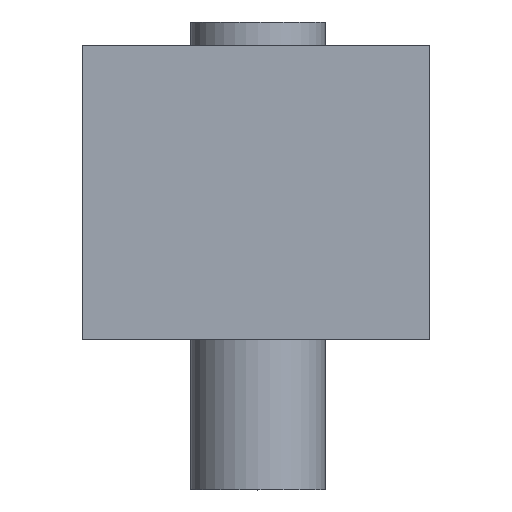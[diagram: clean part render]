
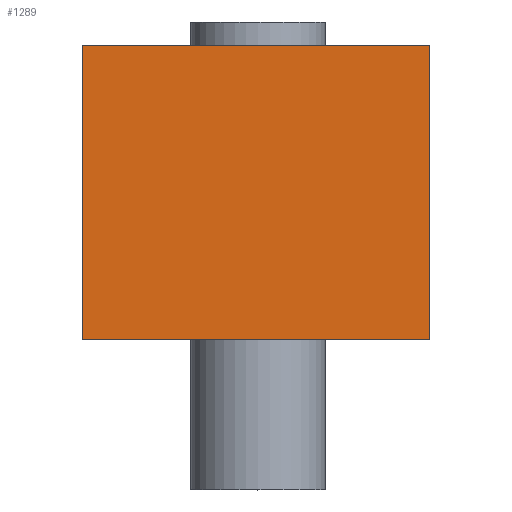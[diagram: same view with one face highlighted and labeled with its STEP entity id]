
A CAD part, top view. The second image highlights one B-rep face of the part: STEP entity #1289.
In plain terms, the highlighted planar face has unit normal (0, 0, 1).
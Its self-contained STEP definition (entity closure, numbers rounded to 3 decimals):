
#44 = PLANE('',#45);
#45 = AXIS2_PLACEMENT_3D('',#46,#47,#48);
#46 = CARTESIAN_POINT('',(-47.,59.043,-35.));
#47 = DIRECTION('',(-1.,0.,0.));
#48 = DIRECTION('',(0.,0.,1.));
#72 = PLANE('',#73);
#73 = AXIS2_PLACEMENT_3D('',#74,#75,#76);
#74 = CARTESIAN_POINT('',(-0.5,59.043,1.25));
#75 = DIRECTION('',(0.,1.,0.));
#76 = DIRECTION('',(0.,-0.,1.));
#100 = PLANE('',#101);
#101 = AXIS2_PLACEMENT_3D('',#102,#103,#104);
#102 = CARTESIAN_POINT('',(46.,59.043,37.5));
#103 = DIRECTION('',(1.,0.,0.));
#104 = DIRECTION('',(0.,0.,-1.));
#250 = VERTEX_POINT('',#251);
#251 = CARTESIAN_POINT('',(-47.,-19.8,37.5));
#265 = PLANE('',#266);
#266 = AXIS2_PLACEMENT_3D('',#267,#268,#269);
#267 = CARTESIAN_POINT('',(-47.,-19.8,34.));
#268 = DIRECTION('',(0.,1.,0.));
#269 = DIRECTION('',(0.,0.,1.));
#277 = EDGE_CURVE('',#250,#278,#280,.T.);
#278 = VERTEX_POINT('',#279);
#279 = CARTESIAN_POINT('',(-47.,59.043,37.5));
#280 = SURFACE_CURVE('',#281,(#285,#292),.PCURVE_S1.);
#281 = LINE('',#282,#283);
#282 = CARTESIAN_POINT('',(-47.,-19.8,37.5));
#283 = VECTOR('',#284,1.);
#284 = DIRECTION('',(0.,1.,0.));
#285 = PCURVE('',#44,#286);
#286 = DEFINITIONAL_REPRESENTATION('',(#287),#291);
#287 = LINE('',#288,#289);
#288 = CARTESIAN_POINT('',(72.5,-78.843));
#289 = VECTOR('',#290,1.);
#290 = DIRECTION('',(0.,1.));
#291 = ( GEOMETRIC_REPRESENTATION_CONTEXT(2) 
PARAMETRIC_REPRESENTATION_CONTEXT() REPRESENTATION_CONTEXT('2D SPACE',''
  ) );
#292 = PCURVE('',#293,#298);
#293 = PLANE('',#294);
#294 = AXIS2_PLACEMENT_3D('',#295,#296,#297);
#295 = CARTESIAN_POINT('',(-47.,59.043,37.5));
#296 = DIRECTION('',(-0.,0.,1.));
#297 = DIRECTION('',(1.,0.,0.));
#298 = DEFINITIONAL_REPRESENTATION('',(#299),#303);
#299 = LINE('',#300,#301);
#300 = CARTESIAN_POINT('',(0.,-78.843));
#301 = VECTOR('',#302,1.);
#302 = DIRECTION('',(0.,1.));
#303 = ( GEOMETRIC_REPRESENTATION_CONTEXT(2) 
PARAMETRIC_REPRESENTATION_CONTEXT() REPRESENTATION_CONTEXT('2D SPACE',''
  ) );
#331 = EDGE_CURVE('',#332,#278,#334,.T.);
#332 = VERTEX_POINT('',#333);
#333 = CARTESIAN_POINT('',(46.,59.043,37.5));
#334 = SURFACE_CURVE('',#335,(#339,#346),.PCURVE_S1.);
#335 = LINE('',#336,#337);
#336 = CARTESIAN_POINT('',(46.,59.043,37.5));
#337 = VECTOR('',#338,1.);
#338 = DIRECTION('',(-1.,0.,0.));
#339 = PCURVE('',#72,#340);
#340 = DEFINITIONAL_REPRESENTATION('',(#341),#345);
#341 = LINE('',#342,#343);
#342 = CARTESIAN_POINT('',(36.25,46.5));
#343 = VECTOR('',#344,1.);
#344 = DIRECTION('',(0.,-1.));
#345 = ( GEOMETRIC_REPRESENTATION_CONTEXT(2) 
PARAMETRIC_REPRESENTATION_CONTEXT() REPRESENTATION_CONTEXT('2D SPACE',''
  ) );
#346 = PCURVE('',#293,#347);
#347 = DEFINITIONAL_REPRESENTATION('',(#348),#352);
#348 = LINE('',#349,#350);
#349 = CARTESIAN_POINT('',(93.,0.));
#350 = VECTOR('',#351,1.);
#351 = DIRECTION('',(-1.,0.));
#352 = ( GEOMETRIC_REPRESENTATION_CONTEXT(2) 
PARAMETRIC_REPRESENTATION_CONTEXT() REPRESENTATION_CONTEXT('2D SPACE',''
  ) );
#554 = EDGE_CURVE('',#332,#555,#557,.T.);
#555 = VERTEX_POINT('',#556);
#556 = CARTESIAN_POINT('',(46.,-19.8,37.5));
#557 = SURFACE_CURVE('',#558,(#562,#569),.PCURVE_S1.);
#558 = LINE('',#559,#560);
#559 = CARTESIAN_POINT('',(46.,59.043,37.5));
#560 = VECTOR('',#561,1.);
#561 = DIRECTION('',(0.,-1.,0.));
#562 = PCURVE('',#100,#563);
#563 = DEFINITIONAL_REPRESENTATION('',(#564),#568);
#564 = LINE('',#565,#566);
#565 = CARTESIAN_POINT('',(0.,0.));
#566 = VECTOR('',#567,1.);
#567 = DIRECTION('',(0.,-1.));
#568 = ( GEOMETRIC_REPRESENTATION_CONTEXT(2) 
PARAMETRIC_REPRESENTATION_CONTEXT() REPRESENTATION_CONTEXT('2D SPACE',''
  ) );
#569 = PCURVE('',#293,#570);
#570 = DEFINITIONAL_REPRESENTATION('',(#571),#575);
#571 = LINE('',#572,#573);
#572 = CARTESIAN_POINT('',(93.,0.));
#573 = VECTOR('',#574,1.);
#574 = DIRECTION('',(0.,-1.));
#575 = ( GEOMETRIC_REPRESENTATION_CONTEXT(2) 
PARAMETRIC_REPRESENTATION_CONTEXT() REPRESENTATION_CONTEXT('2D SPACE',''
  ) );
#1113 = EDGE_CURVE('',#250,#555,#1114,.T.);
#1114 = SURFACE_CURVE('',#1115,(#1119,#1126),.PCURVE_S1.);
#1115 = LINE('',#1116,#1117);
#1116 = CARTESIAN_POINT('',(-47.,-19.8,37.5));
#1117 = VECTOR('',#1118,1.);
#1118 = DIRECTION('',(1.,0.,0.));
#1119 = PCURVE('',#265,#1120);
#1120 = DEFINITIONAL_REPRESENTATION('',(#1121),#1125);
#1121 = LINE('',#1122,#1123);
#1122 = CARTESIAN_POINT('',(3.5,0.));
#1123 = VECTOR('',#1124,1.);
#1124 = DIRECTION('',(0.,1.));
#1125 = ( GEOMETRIC_REPRESENTATION_CONTEXT(2) 
PARAMETRIC_REPRESENTATION_CONTEXT() REPRESENTATION_CONTEXT('2D SPACE',''
  ) );
#1126 = PCURVE('',#293,#1127);
#1127 = DEFINITIONAL_REPRESENTATION('',(#1128),#1132);
#1128 = LINE('',#1129,#1130);
#1129 = CARTESIAN_POINT('',(0.,-78.843));
#1130 = VECTOR('',#1131,1.);
#1131 = DIRECTION('',(1.,0.));
#1132 = ( GEOMETRIC_REPRESENTATION_CONTEXT(2) 
PARAMETRIC_REPRESENTATION_CONTEXT() REPRESENTATION_CONTEXT('2D SPACE',''
  ) );
#1289 = ADVANCED_FACE('',(#1290),#293,.T.);
#1290 = FACE_BOUND('',#1291,.T.);
#1291 = EDGE_LOOP('',(#1292,#1293,#1294,#1295));
#1292 = ORIENTED_EDGE('',*,*,#277,.F.);
#1293 = ORIENTED_EDGE('',*,*,#1113,.T.);
#1294 = ORIENTED_EDGE('',*,*,#554,.F.);
#1295 = ORIENTED_EDGE('',*,*,#331,.T.);
